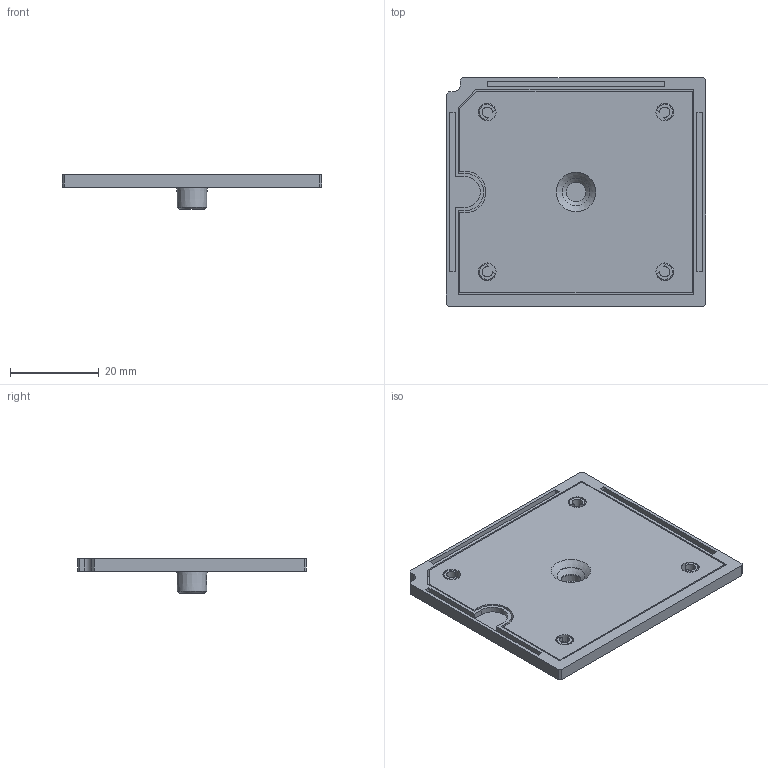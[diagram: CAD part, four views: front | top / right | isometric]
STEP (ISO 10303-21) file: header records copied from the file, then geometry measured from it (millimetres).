
FILE_DESCRIPTION(/* description */ ('Unknown','CAx-IF Rec.Pracs.---Representation and Presentation of Product Manufacturing Information (PMI)---4.0---2014-10-13','CAx-IF Rec.Pracs.---3D Tessellated Geometry---0.4---2014-09-14','2;1'),/* implementation_level */ '2;1');
FILE_NAME(/* name */ 'V23990-K23-T-02.01-27',/* time_stamp */ '2025-10-08T15:28:57+02:00',/* author */ ('Unknown'),/* organization */ ('Unknown'),/* preprocessor_version */ 'ST-DEVELOPER v20',/* originating_system */ 'Solid Edge',/* authorisation */ 'Unknown');
FILE_SCHEMA (('AP242_MANAGED_MODEL_BASED_3D_ENGINEERING_MIM_LF { 1 0 10303 442 1 1 4 }'));
Length unit declared in the file: millimetre
Products named in the file (3): NEW MiniSKiiP 2nd Generation Slim Lid Size 2_25121060; kunstoffdeckel flach 2; 41350180
Assembly tree (2 placements, depth 2):
  NEW MiniSKiiP 2nd Generation Slim Lid Size 2_25121060
    kunstoffdeckel flach 2
    41350180
Bounding box: 58.5 x 51.5 x 7.8 mm (x, y, z)
Volume: 8010.1 mm3; surface area: 12746.1 mm2
Topology: 3 solids, 3 shells, 322 faces, 769 edges, 456 vertices
Faces by surface type: bspline 128, plane 83, cylinder 52, torus 42, cone 17
Full cylindrical faces by diameter (mm): 4 x4, 4.5 x2, 10 x1, 12 x1
Entity records: 10975 total; most frequent: CARTESIAN_POINT 4353, ORIENTED_EDGE 1484, DIRECTION 1176, EDGE_CURVE 742, AXIS2_PLACEMENT_3D 483, VERTEX_POINT 452, EDGE_LOOP 360, FACE_BOUND 360
